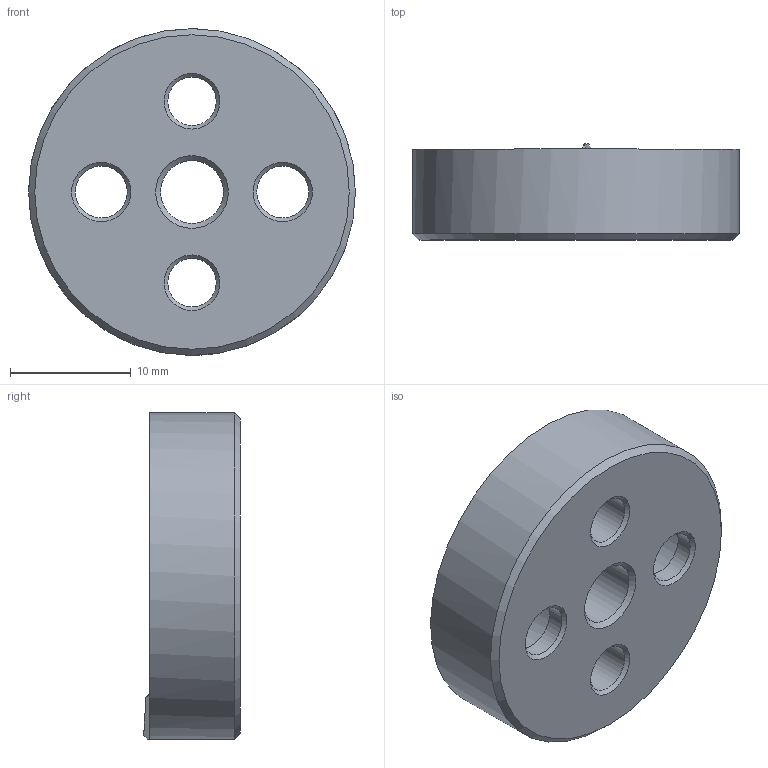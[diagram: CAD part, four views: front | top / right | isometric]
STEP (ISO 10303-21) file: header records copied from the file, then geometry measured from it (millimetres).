
FILE_DESCRIPTION( ( 'STEP AP203' ), '1' );
FILE_NAME( 'C:/Temp/Ganter_Step_05_03_2020/data/3_2/gn187_4/gn187_4_st/Serrated locking plate GN 187.4-27-48-B-ST.stp', '2020-03-13T05:25:37', ( 'License CC BY-ND 4.0' ), ( 'CADENAS' ), ' ', 'PARTsolutions', ' ' );
FILE_SCHEMA( ( 'CONFIG_CONTROL_DESIGN' ) );
Length unit declared in the file: millimetre
Products named in the file (1): _Serrated locking plate GN 187.4-27-48-B-ST
Bounding box: 27 x 7.98 x 27 mm (x, y, z)
Volume: 3112.2 mm3; surface area: 2218.3 mm2
Topology: 1 solids, 1 shells, 36 faces, 94 edges, 60 vertices
Faces by surface type: cone 15, cylinder 12, plane 9
Full cylindrical faces by diameter (mm): 4 x2, 4.3 x2, 5.2 x1, 8.1 x2, 27 x1
Entity records: 1152 total; most frequent: CARTESIAN_POINT 286, DIRECTION 178, ORIENTED_EDGE 146, AXIS2_PLACEMENT_3D 84, EDGE_CURVE 73, EDGE_LOOP 63, VERTEX_POINT 56, FACE_OUTER_BOUND 44
